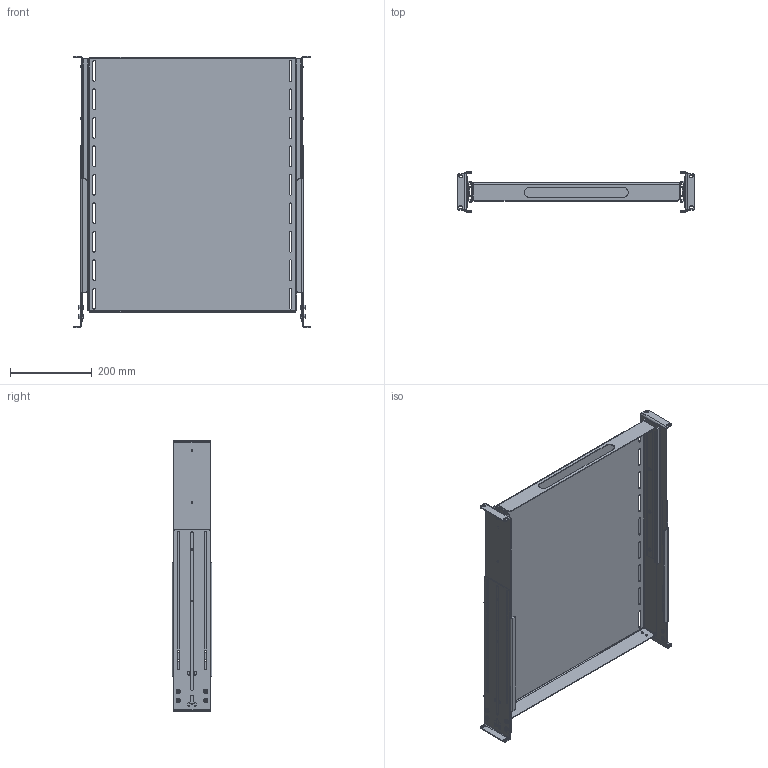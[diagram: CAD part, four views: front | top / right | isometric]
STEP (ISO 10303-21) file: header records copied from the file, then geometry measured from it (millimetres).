
FILE_DESCRIPTION (( 'STEP AP203' ), '1' );
FILE_NAME ('p23shp810.STEP', '2015-08-05T21:00:17', ( '' ), ( '' ), 'SwSTEP 2.0', 'SolidWorks 2014', '' );
FILE_SCHEMA (( 'CONFIG_CONTROL_DESIGN' ));
Length unit declared in the file: inch
Products named in the file (8): 99411354_99411354; 87746619_87746619 CR-PHMS 0.19-32x0.375x0.375-N; p23shp810; 89121684; 89121686; 89121682; 30297001_retracted; 87546832_CR-PHMS 0.164-32x0.25x0.25-N
Assembly tree (31 placements, depth 2):
  p23shp810
    89121684  x2
    89121686
    89121682  x2
    30297001_retracted  x2
    87546832_CR-PHMS 0.164-32x0.25x0.25-N  x8
    99411354_99411354  x8
    87746619_87746619 CR-PHMS 0.19-32x0.375x0.375-N  x8
Bounding box: 582.55 x 97.89 x 664.99 mm (x, y, z)
Volume: 1496386.3 mm3; surface area: 1528366.4 mm2
Topology: 35 solids, 35 shells, 3015 faces, 7771 edges, 4882 vertices
Faces by surface type: cone 1080, cylinder 999, plane 648, bspline 192, torus 64, sphere 32
Entity records: 27181 total; most frequent: CARTESIAN_POINT 6280, DIRECTION 4248, ORIENTED_EDGE 3966, EDGE_CURVE 1983, AXIS2_PLACEMENT_3D 1655, VERTEX_POINT 1258, VECTOR 938, LINE 938
